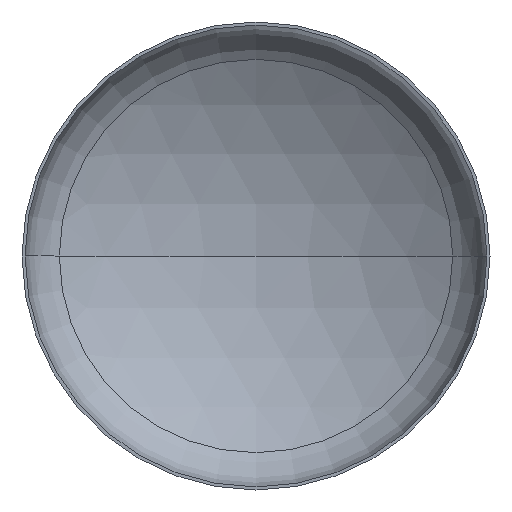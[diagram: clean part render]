
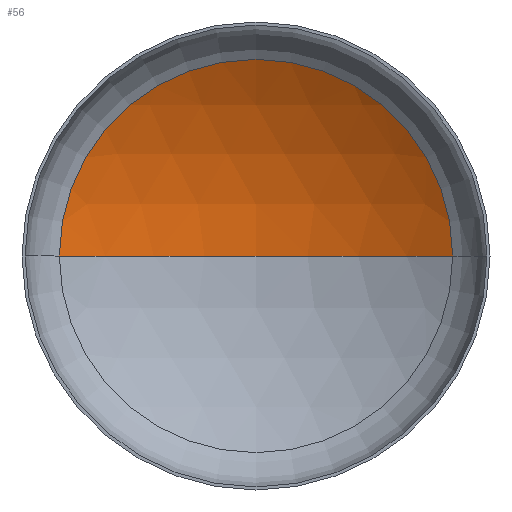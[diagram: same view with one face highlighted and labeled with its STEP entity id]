
A CAD part, front view. The second image highlights one B-rep face of the part: STEP entity #56.
In plain terms, the highlighted spherical face has radius 1920 mm.
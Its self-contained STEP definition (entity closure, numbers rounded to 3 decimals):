
#11 = VERTEX_POINT ( 'NONE', #104 ) ;
#12 = DIRECTION ( 'NONE',  ( 0., 0., -1. ) ) ;
#15 = ORIENTED_EDGE ( 'NONE', *, *, #91, .F. ) ;
#16 = CARTESIAN_POINT ( 'NONE',  ( 0., -1264.054, 0. ) ) ;
#25 = DIRECTION ( 'NONE',  ( 0., 0., 1. ) ) ;
#29 = DIRECTION ( 'NONE',  ( 0., -1., 0. ) ) ;
#31 = AXIS2_PLACEMENT_3D ( 'NONE', #219, #25, #47 ) ;
#32 = AXIS2_PLACEMENT_3D ( 'NONE', #211, #136, #132 ) ;
#37 = AXIS2_PLACEMENT_3D ( 'NONE', #233, #29, #175 ) ;
#41 = VERTEX_POINT ( 'NONE', #78 ) ;
#47 = DIRECTION ( 'NONE',  ( 1., 0., 0. ) ) ;
#56 = ADVANCED_FACE ( 'NONE', ( #199 ), #162, .F. ) ;
#67 = VERTEX_POINT ( 'NONE', #224 ) ;
#69 = AXIS2_PLACEMENT_3D ( 'NONE', #16, #12, #229 ) ;
#78 = CARTESIAN_POINT ( 'NONE',  ( 1008.31, 369.871, 0. ) ) ;
#89 = EDGE_CURVE ( 'NONE', #41, #67, #183, .T. ) ;
#90 = EDGE_CURVE ( 'NONE', #11, #41, #410, .T. ) ;
#91 = EDGE_CURVE ( 'NONE', #11, #67, #305, .T. ) ;
#104 = CARTESIAN_POINT ( 'NONE',  ( 0., 655.946, 0. ) ) ;
#116 = ORIENTED_EDGE ( 'NONE', *, *, #89, .T. ) ;
#132 = DIRECTION ( 'NONE',  ( -1., 0., 0. ) ) ;
#133 = EDGE_LOOP ( 'NONE', ( #15, #278, #116 ) ) ;
#136 = DIRECTION ( 'NONE',  ( 0., 0., -1. ) ) ;
#162 = SPHERICAL_SURFACE ( 'NONE', #69, 1920. ) ;
#175 = DIRECTION ( 'NONE',  ( 1., 0., 0. ) ) ;
#183 = CIRCLE ( 'NONE', #37, 1008.31 ) ;
#199 = FACE_OUTER_BOUND ( 'NONE', #133, .T. ) ;
#211 = CARTESIAN_POINT ( 'NONE',  ( 0., -1264.054, 0. ) ) ;
#219 = CARTESIAN_POINT ( 'NONE',  ( 0., -1264.054, 0. ) ) ;
#224 = CARTESIAN_POINT ( 'NONE',  ( -1008.31, 369.871, 0. ) ) ;
#229 = DIRECTION ( 'NONE',  ( -1., 0., 0. ) ) ;
#233 = CARTESIAN_POINT ( 'NONE',  ( 0., 369.871, 0. ) ) ;
#278 = ORIENTED_EDGE ( 'NONE', *, *, #90, .T. ) ;
#305 = CIRCLE ( 'NONE', #31, 1920. ) ;
#410 = CIRCLE ( 'NONE', #32, 1920. ) ;
